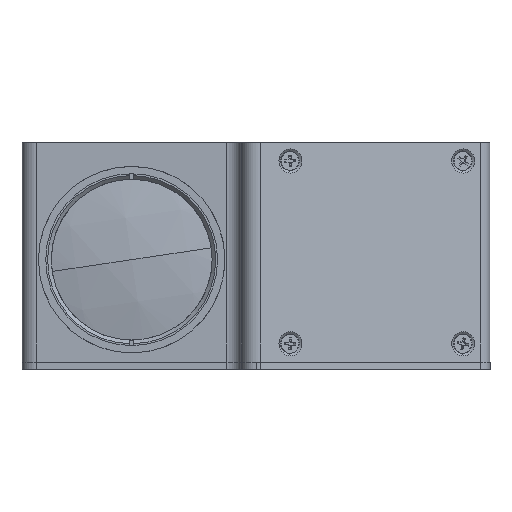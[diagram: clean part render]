
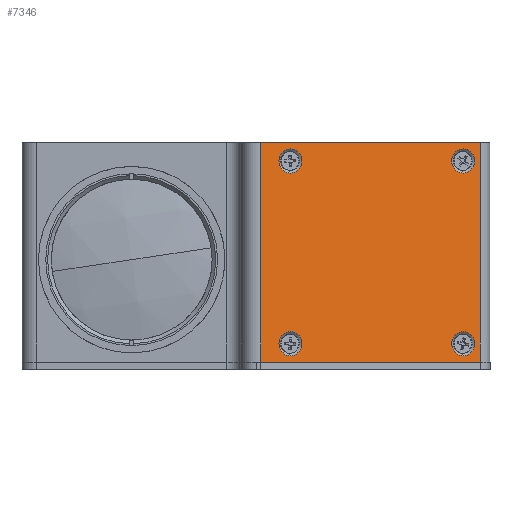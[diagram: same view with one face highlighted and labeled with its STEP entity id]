
A CAD part, left-side view. The second image highlights one B-rep face of the part: STEP entity #7346.
In plain terms, the highlighted planar face has unit normal (-0.946, -0.326, 0).
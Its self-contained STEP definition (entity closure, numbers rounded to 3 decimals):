
#512 = CARTESIAN_POINT ( 'NONE',  ( 50.615, -90.677, 23.7 ) ) ;
#629 = CIRCLE ( 'NONE', #14115, 3.3 ) ;
#687 = EDGE_CURVE ( 'NONE', #4554, #8564, #5957, .T. ) ;
#831 = EDGE_LOOP ( 'NONE', ( #11943, #12009, #13335, #5725 ) ) ;
#857 = CARTESIAN_POINT ( 'NONE',  ( 50.615, -90.677, -23. ) ) ;
#920 = CARTESIAN_POINT ( 'NONE',  ( 34.337, -43.401, 23.7 ) ) ;
#926 = CIRCLE ( 'NONE', #10362, 3.3 ) ;
#1189 = VERTEX_POINT ( 'NONE', #9961 ) ;
#1338 = VERTEX_POINT ( 'NONE', #920 ) ;
#1455 = VECTOR ( 'NONE', #14631, 1000. ) ;
#1997 = DIRECTION ( 'NONE',  ( -0.946, -0.326, 0. ) ) ;
#2018 = DIRECTION ( 'NONE',  ( 0., 0., 1. ) ) ;
#2196 = CIRCLE ( 'NONE', #10159, 3.3 ) ;
#2502 = CARTESIAN_POINT ( 'NONE',  ( 52.208, -95.302, -28. ) ) ;
#2537 = CARTESIAN_POINT ( 'NONE',  ( 50.615, -90.677, -26.3 ) ) ;
#2541 = FACE_BOUND ( 'NONE', #7504, .T. ) ;
#2728 = DIRECTION ( 'NONE',  ( 0., 0., -1. ) ) ;
#2772 = EDGE_CURVE ( 'NONE', #11930, #3731, #5849, .T. ) ;
#2794 = VECTOR ( 'NONE', #2728, 1000. ) ;
#2796 = CARTESIAN_POINT ( 'NONE',  ( 54.439, -101.782, 32. ) ) ;
#2949 = CARTESIAN_POINT ( 'NONE',  ( 50.615, -90.677, 27. ) ) ;
#3276 = FACE_BOUND ( 'NONE', #4444, .T. ) ;
#3393 = CARTESIAN_POINT ( 'NONE',  ( 50.615, -90.677, -23. ) ) ;
#3512 = CARTESIAN_POINT ( 'NONE',  ( 34.337, -43.401, -23. ) ) ;
#3731 = VERTEX_POINT ( 'NONE', #9535 ) ;
#3808 = ORIENTED_EDGE ( 'NONE', *, *, #7358, .F. ) ;
#4109 = DIRECTION ( 'NONE',  ( 0., 0., 1. ) ) ;
#4126 = ORIENTED_EDGE ( 'NONE', *, *, #687, .F. ) ;
#4362 = DIRECTION ( 'NONE',  ( -0.946, -0.326, 0. ) ) ;
#4444 = EDGE_LOOP ( 'NONE', ( #5453, #14151 ) ) ;
#4545 = DIRECTION ( 'NONE',  ( 0., 0., 1. ) ) ;
#4554 = VERTEX_POINT ( 'NONE', #512 ) ;
#4661 = DIRECTION ( 'NONE',  ( 0., 0., 1. ) ) ;
#5206 = EDGE_CURVE ( 'NONE', #1338, #12176, #13814, .T. ) ;
#5271 = CARTESIAN_POINT ( 'NONE',  ( 50.615, -90.677, 27. ) ) ;
#5305 = EDGE_CURVE ( 'NONE', #12399, #8236, #629, .T. ) ;
#5453 = ORIENTED_EDGE ( 'NONE', *, *, #6808, .F. ) ;
#5529 = EDGE_LOOP ( 'NONE', ( #11386, #11854 ) ) ;
#5540 = EDGE_CURVE ( 'NONE', #1189, #14677, #11615, .T. ) ;
#5623 = FACE_BOUND ( 'NONE', #13852, .T. ) ;
#5725 = ORIENTED_EDGE ( 'NONE', *, *, #5540, .T. ) ;
#5849 = CIRCLE ( 'NONE', #13636, 3.3 ) ;
#5957 = CIRCLE ( 'NONE', #7060, 3.3 ) ;
#6001 = EDGE_CURVE ( 'NONE', #1189, #6072, #10199, .T. ) ;
#6072 = VERTEX_POINT ( 'NONE', #12097 ) ;
#6248 = DIRECTION ( 'NONE',  ( -0.946, -0.326, 0. ) ) ;
#6259 = DIRECTION ( 'NONE',  ( 0.326, -0.946, 0. ) ) ;
#6436 = DIRECTION ( 'NONE',  ( 0., 0., 1. ) ) ;
#6597 = PLANE ( 'NONE',  #10136 ) ;
#6603 = EDGE_CURVE ( 'NONE', #12676, #6072, #7261, .T. ) ;
#6808 = EDGE_CURVE ( 'NONE', #8236, #12399, #8554, .T. ) ;
#7060 = AXIS2_PLACEMENT_3D ( 'NONE', #2949, #11007, #4109 ) ;
#7082 = EDGE_CURVE ( 'NONE', #3731, #11930, #9630, .T. ) ;
#7114 = VECTOR ( 'NONE', #6259, 1000. ) ;
#7261 = LINE ( 'NONE', #8020, #10687 ) ;
#7262 = EDGE_CURVE ( 'NONE', #8564, #4554, #926, .T. ) ;
#7346 = ADVANCED_FACE ( 'NONE', ( #2541, #11716, #3276, #5623, #14285 ), #6597, .T. ) ;
#7358 = EDGE_CURVE ( 'NONE', #12176, #1338, #2196, .T. ) ;
#7413 = EDGE_CURVE ( 'NONE', #12676, #14677, #13243, .T. ) ;
#7504 = EDGE_LOOP ( 'NONE', ( #10673, #4126 ) ) ;
#7767 = CARTESIAN_POINT ( 'NONE',  ( 42.084, -65.9, 2. ) ) ;
#7875 = CARTESIAN_POINT ( 'NONE',  ( 34.337, -43.401, 27. ) ) ;
#7939 = DIRECTION ( 'NONE',  ( 0., 0., 1. ) ) ;
#8020 = CARTESIAN_POINT ( 'NONE',  ( 52.208, -95.302, 2. ) ) ;
#8236 = VERTEX_POINT ( 'NONE', #9633 ) ;
#8554 = CIRCLE ( 'NONE', #11358, 3.3 ) ;
#8564 = VERTEX_POINT ( 'NONE', #11715 ) ;
#8970 = DIRECTION ( 'NONE',  ( -0.946, -0.326, 0. ) ) ;
#9090 = CARTESIAN_POINT ( 'NONE',  ( 54.439, -101.782, -28. ) ) ;
#9104 = CARTESIAN_POINT ( 'NONE',  ( 31.554, -35.319, -28. ) ) ;
#9535 = CARTESIAN_POINT ( 'NONE',  ( 50.615, -90.677, -19.7 ) ) ;
#9630 = CIRCLE ( 'NONE', #10727, 3.3 ) ;
#9633 = CARTESIAN_POINT ( 'NONE',  ( 34.337, -43.401, -19.7 ) ) ;
#9961 = CARTESIAN_POINT ( 'NONE',  ( 31.554, -35.319, 32. ) ) ;
#10096 = DIRECTION ( 'NONE',  ( 0., 0., 1. ) ) ;
#10136 = AXIS2_PLACEMENT_3D ( 'NONE', #7767, #1997, #10096 ) ;
#10159 = AXIS2_PLACEMENT_3D ( 'NONE', #11268, #4362, #12346 ) ;
#10199 = LINE ( 'NONE', #2796, #7114 ) ;
#10362 = AXIS2_PLACEMENT_3D ( 'NONE', #5271, #13213, #6436 ) ;
#10673 = ORIENTED_EDGE ( 'NONE', *, *, #7262, .F. ) ;
#10687 = VECTOR ( 'NONE', #14736, 1000. ) ;
#10727 = AXIS2_PLACEMENT_3D ( 'NONE', #3393, #11434, #4545 ) ;
#11007 = DIRECTION ( 'NONE',  ( -0.946, -0.326, 0. ) ) ;
#11268 = CARTESIAN_POINT ( 'NONE',  ( 34.337, -43.401, 27. ) ) ;
#11358 = AXIS2_PLACEMENT_3D ( 'NONE', #13039, #6248, #14161 ) ;
#11386 = ORIENTED_EDGE ( 'NONE', *, *, #7082, .F. ) ;
#11434 = DIRECTION ( 'NONE',  ( -0.946, -0.326, 0. ) ) ;
#11548 = DIRECTION ( 'NONE',  ( -0.946, -0.326, 0. ) ) ;
#11615 = LINE ( 'NONE', #11901, #2794 ) ;
#11715 = CARTESIAN_POINT ( 'NONE',  ( 50.615, -90.677, 30.3 ) ) ;
#11716 = FACE_BOUND ( 'NONE', #5529, .T. ) ;
#11854 = ORIENTED_EDGE ( 'NONE', *, *, #2772, .F. ) ;
#11901 = CARTESIAN_POINT ( 'NONE',  ( 31.554, -35.319, 2. ) ) ;
#11930 = VERTEX_POINT ( 'NONE', #2537 ) ;
#11943 = ORIENTED_EDGE ( 'NONE', *, *, #7413, .F. ) ;
#12009 = ORIENTED_EDGE ( 'NONE', *, *, #6603, .T. ) ;
#12090 = CARTESIAN_POINT ( 'NONE',  ( 34.337, -43.401, 30.3 ) ) ;
#12097 = CARTESIAN_POINT ( 'NONE',  ( 52.208, -95.302, 32. ) ) ;
#12176 = VERTEX_POINT ( 'NONE', #12090 ) ;
#12346 = DIRECTION ( 'NONE',  ( 0., 0., 1. ) ) ;
#12399 = VERTEX_POINT ( 'NONE', #13589 ) ;
#12676 = VERTEX_POINT ( 'NONE', #2502 ) ;
#13039 = CARTESIAN_POINT ( 'NONE',  ( 34.337, -43.401, -23. ) ) ;
#13213 = DIRECTION ( 'NONE',  ( -0.946, -0.326, 0. ) ) ;
#13243 = LINE ( 'NONE', #9090, #1455 ) ;
#13335 = ORIENTED_EDGE ( 'NONE', *, *, #6001, .F. ) ;
#13589 = CARTESIAN_POINT ( 'NONE',  ( 34.337, -43.401, -26.3 ) ) ;
#13636 = AXIS2_PLACEMENT_3D ( 'NONE', #857, #8970, #2018 ) ;
#13814 = CIRCLE ( 'NONE', #14408, 3.3 ) ;
#13852 = EDGE_LOOP ( 'NONE', ( #3808, #14261 ) ) ;
#14115 = AXIS2_PLACEMENT_3D ( 'NONE', #3512, #11548, #4661 ) ;
#14151 = ORIENTED_EDGE ( 'NONE', *, *, #5305, .F. ) ;
#14161 = DIRECTION ( 'NONE',  ( 0., 0., 1. ) ) ;
#14261 = ORIENTED_EDGE ( 'NONE', *, *, #5206, .F. ) ;
#14285 = FACE_OUTER_BOUND ( 'NONE', #831, .T. ) ;
#14408 = AXIS2_PLACEMENT_3D ( 'NONE', #7875, #14633, #7939 ) ;
#14631 = DIRECTION ( 'NONE',  ( -0.326, 0.946, 0. ) ) ;
#14633 = DIRECTION ( 'NONE',  ( -0.946, -0.326, 0. ) ) ;
#14677 = VERTEX_POINT ( 'NONE', #9104 ) ;
#14736 = DIRECTION ( 'NONE',  ( 0., 0., 1. ) ) ;
